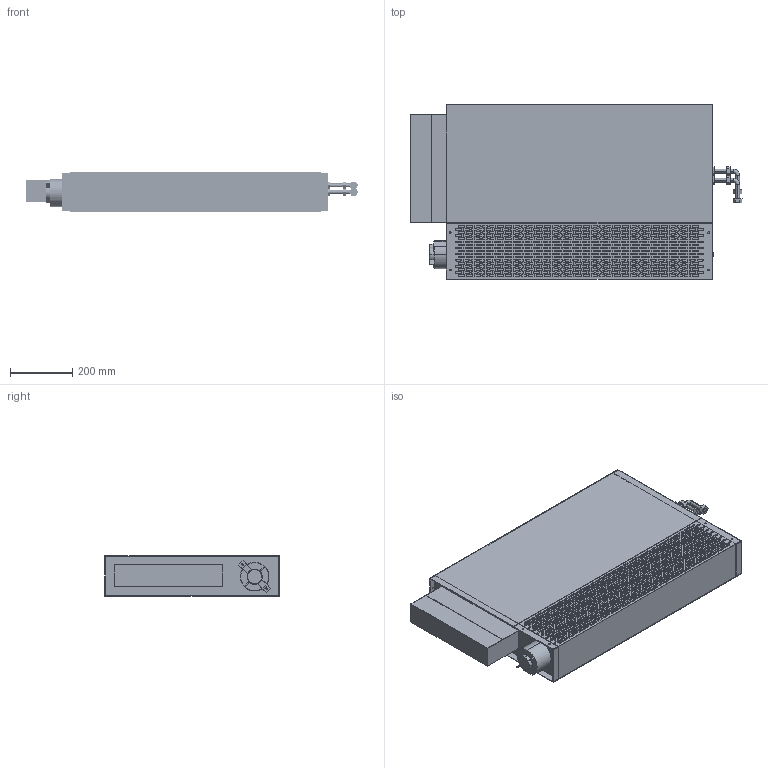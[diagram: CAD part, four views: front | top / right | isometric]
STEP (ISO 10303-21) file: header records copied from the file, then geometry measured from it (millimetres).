
FILE_DESCRIPTION (( 'STEP AP214' ), '1' );
FILE_NAME ('PFWSLA-03-2pipe_v2.STEP', '2024-10-22T13:51:31', ( '' ), ( '' ), 'SwSTEP 2.0', 'SolidWorks 2023', '' );
FILE_SCHEMA (( 'AUTOMOTIVE_DESIGN' ));
Length unit declared in the file: inch
Products named in the file (1): PFWSLA-03-2pipe_v2
Bounding box: 1070.06 x 561.98 x 130.18 mm (x, y, z)
Volume: 17515602.3 mm3; surface area: 4021089.9 mm2
Topology: 24 solids, 24 shells, 4328 faces, 12036 edges, 8008 vertices
Faces by surface type: plane 2570, cylinder 1754, torus 4
Entity records: 141580 total; most frequent: CARTESIAN_POINT 24373, DIRECTION 24218, ORIENTED_EDGE 24072, EDGE_CURVE 12036, VECTOR 8512, LINE 8512, VERTEX_POINT 8008, AXIS2_PLACEMENT_3D 7853
